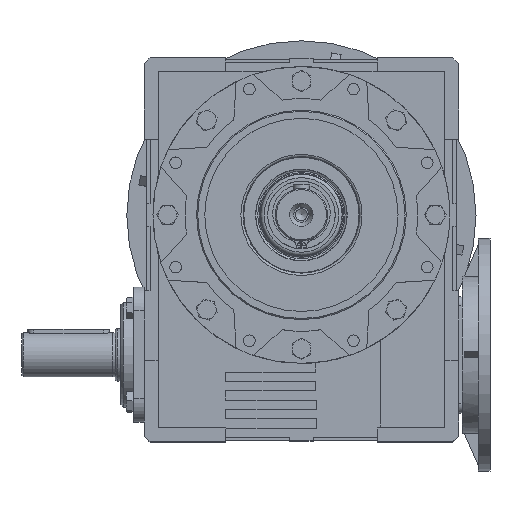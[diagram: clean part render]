
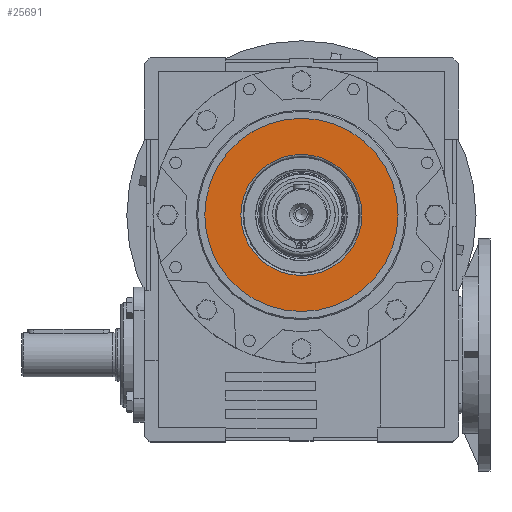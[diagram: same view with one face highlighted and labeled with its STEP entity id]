
A CAD part, top view. The second image highlights one B-rep face of the part: STEP entity #25691.
In plain terms, the highlighted planar face has unit normal (0, 0, 1).
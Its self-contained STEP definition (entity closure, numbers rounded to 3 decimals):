
#1049 = ORIENTED_EDGE ( 'NONE', *, *, #37439, .T. ) ;
#1330 = VERTEX_POINT ( 'NONE', #17131 ) ;
#3698 = PLANE ( 'NONE',  #33626 ) ;
#5478 = CIRCLE ( 'NONE', #26589, 52. ) ;
#7257 = DIRECTION ( 'NONE',  ( -1., 0., 0. ) ) ;
#7356 = CARTESIAN_POINT ( 'NONE',  ( 0., 0., 80. ) ) ;
#10868 = DIRECTION ( 'NONE',  ( -1., 0., 0. ) ) ;
#14084 = EDGE_LOOP ( 'NONE', ( #29736 ) ) ;
#14587 = FACE_BOUND ( 'NONE', #14084, .T. ) ;
#17131 = CARTESIAN_POINT ( 'NONE',  ( 83., 0., 80. ) ) ;
#17219 = VERTEX_POINT ( 'NONE', #41331 ) ;
#19692 = DIRECTION ( 'NONE',  ( 0., 0., 1. ) ) ;
#23935 = EDGE_CURVE ( 'NONE', #17219, #17219, #5478, .T. ) ;
#25691 = ADVANCED_FACE ( 'NONE', ( #14587, #33621 ), #3698, .F. ) ;
#26589 = AXIS2_PLACEMENT_3D ( 'NONE', #7356, #30449, #10868 ) ;
#29736 = ORIENTED_EDGE ( 'NONE', *, *, #23935, .T. ) ;
#30106 = DIRECTION ( 'NONE',  ( 0., 0., -1. ) ) ;
#30449 = DIRECTION ( 'NONE',  ( 0., 0., -1. ) ) ;
#31709 = EDGE_LOOP ( 'NONE', ( #1049 ) ) ;
#33621 = FACE_OUTER_BOUND ( 'NONE', #31709, .T. ) ;
#33626 = AXIS2_PLACEMENT_3D ( 'NONE', #42841, #30106, #7257 ) ;
#34284 = CIRCLE ( 'NONE', #39086, 83. ) ;
#37439 = EDGE_CURVE ( 'NONE', #1330, #1330, #34284, .T. ) ;
#38651 = CARTESIAN_POINT ( 'NONE',  ( 0., 0., 80. ) ) ;
#39086 = AXIS2_PLACEMENT_3D ( 'NONE', #38651, #19692, #41797 ) ;
#41331 = CARTESIAN_POINT ( 'NONE',  ( -52., 0., 80. ) ) ;
#41797 = DIRECTION ( 'NONE',  ( 1., 0., 0. ) ) ;
#42841 = CARTESIAN_POINT ( 'NONE',  ( 0., 83., 80. ) ) ;
